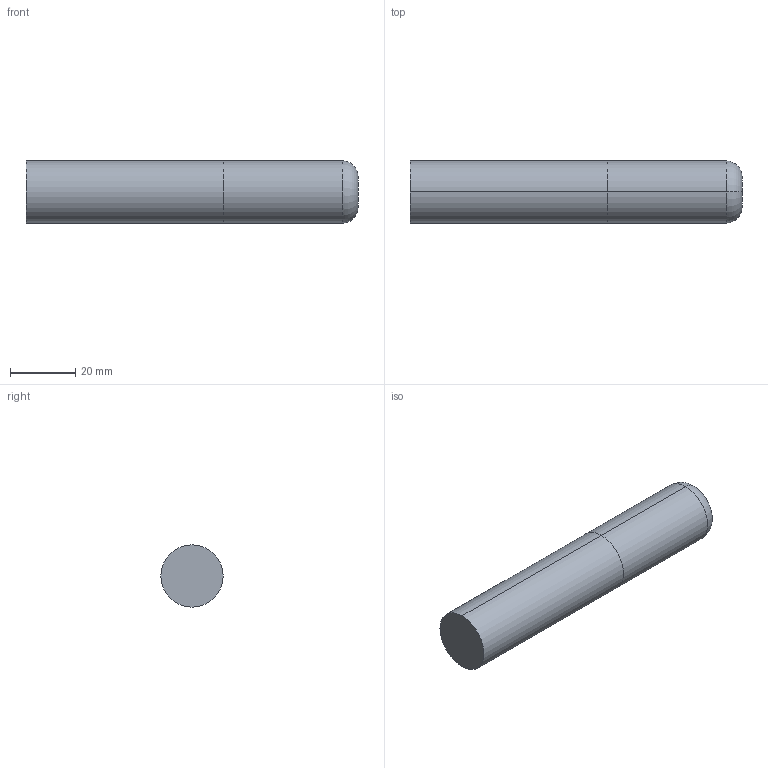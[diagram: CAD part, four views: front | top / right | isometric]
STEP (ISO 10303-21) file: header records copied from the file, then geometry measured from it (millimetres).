
FILE_DESCRIPTION (( 'STEP AP214' ), '1' );
FILE_NAME ('SSI50750-190.STEP', '2025-05-23T15:23:41', ( '' ), ( '' ), 'SwSTEP 2.0', 'SolidWorks 2023', '' );
FILE_SCHEMA (( 'AUTOMOTIVE_DESIGN' ));
Length unit declared in the file: inch
Products named in the file (3): SSI5 Imperial SHANK ONLY_SSI50750-190; SSI5 Imperial LOC ONLY_SSI50750-190; SSI50750-190
Assembly tree (2 placements, depth 2):
  SSI50750-190
    SSI5 Imperial LOC ONLY_SSI50750-190
    SSI5 Imperial SHANK ONLY_SSI50750-190
Bounding box: 101.6 x 19.05 x 19.05 mm (x, y, z)
Volume: 28693.1 mm3; surface area: 7086.3 mm2
Topology: 2 solids, 2 shells, 10 faces, 16 edges, 10 vertices
Faces by surface type: cylinder 4, plane 4, torus 2
Entity records: 412 total; most frequent: DIRECTION 58, CARTESIAN_POINT 41, ORIENTED_EDGE 32, AXIS2_PLACEMENT_3D 27, EDGE_CURVE 16, CIRCLE 12, DIMENSIONAL_EXPONENTS 11, UNCERTAINTY_MEASURE_WITH_UNIT 11
